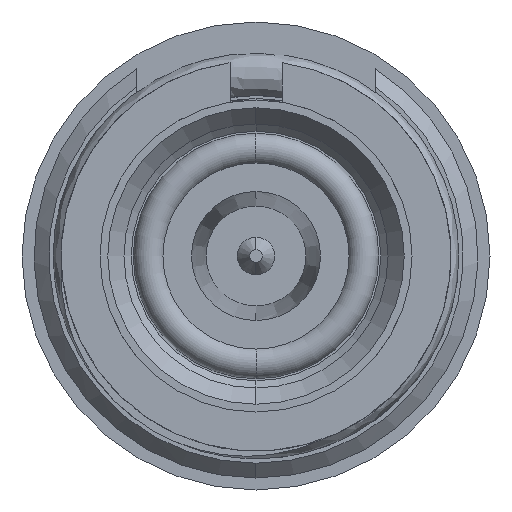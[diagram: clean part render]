
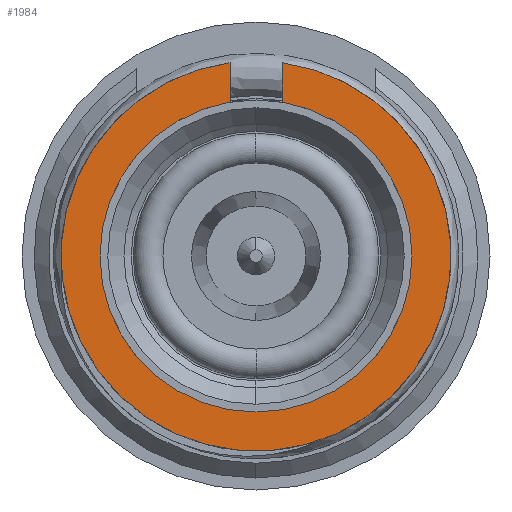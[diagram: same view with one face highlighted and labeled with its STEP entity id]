
A CAD part, left-side view. The second image highlights one B-rep face of the part: STEP entity #1984.
In plain terms, the highlighted planar face has unit normal (-1, 0, 0).
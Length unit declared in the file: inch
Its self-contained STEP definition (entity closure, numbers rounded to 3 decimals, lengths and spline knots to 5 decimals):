
#24 = DIRECTION ( 'NONE',  ( 0., 0., 1. ) ) ;
#263 = CARTESIAN_POINT ( 'NONE',  ( 0.128, -0.025, 0.14029 ) ) ;
#448 = DIRECTION ( 'NONE',  ( -1., 0., 0. ) ) ;
#497 = EDGE_CURVE ( 'NONE', #3614, #3684, #3669, .T. ) ;
#499 = ORIENTED_EDGE ( 'NONE', *, *, #1493, .T. ) ;
#628 = CIRCLE ( 'NONE', #3351, 0.15 ) ;
#655 = CARTESIAN_POINT ( 'NONE',  ( 0.128, 0., -0.15 ) ) ;
#669 = DIRECTION ( 'NONE',  ( 0., 0., -1. ) ) ;
#1075 = CARTESIAN_POINT ( 'NONE',  ( 0.128, -0.025, 0.1479 ) ) ;
#1454 = EDGE_CURVE ( 'NONE', #2110, #3614, #628, .T. ) ;
#1493 = EDGE_CURVE ( 'NONE', #4240, #4301, #3578, .T. ) ;
#1688 = DIRECTION ( 'NONE',  ( 0., 0., 1. ) ) ;
#1821 = DIRECTION ( 'NONE',  ( 0., 0., 1. ) ) ;
#1971 = LINE ( 'NONE', #4815, #2111 ) ;
#1984 = ADVANCED_FACE ( 'NONE', ( #3705 ), #4429, .T. ) ;
#2023 = ORIENTED_EDGE ( 'NONE', *, *, #497, .F. ) ;
#2025 = DIRECTION ( 'NONE',  ( -1., 0., 0. ) ) ;
#2109 = ORIENTED_EDGE ( 'NONE', *, *, #3055, .T. ) ;
#2110 = VERTEX_POINT ( 'NONE', #4504 ) ;
#2111 = VECTOR ( 'NONE', #24, 39.37008 ) ;
#2210 = CARTESIAN_POINT ( 'NONE',  ( 0.128, 0.025, 0.18583 ) ) ;
#2231 = DIRECTION ( 'NONE',  ( -1., 0., 0. ) ) ;
#2519 = DIRECTION ( 'NONE',  ( -1., 0., 0. ) ) ;
#2705 = EDGE_CURVE ( 'NONE', #2110, #4240, #1971, .T. ) ;
#2790 = ORIENTED_EDGE ( 'NONE', *, *, #2705, .T. ) ;
#3055 = EDGE_CURVE ( 'NONE', #4301, #3684, #4739, .T. ) ;
#3191 = EDGE_LOOP ( 'NONE', ( #4077, #2790, #499, #2109, #2023 ) ) ;
#3351 = AXIS2_PLACEMENT_3D ( 'NONE', #4389, #448, #1688 ) ;
#3578 = CIRCLE ( 'NONE', #3598, 0.1875 ) ;
#3598 = AXIS2_PLACEMENT_3D ( 'NONE', #4432, #2519, #4025 ) ;
#3614 = VERTEX_POINT ( 'NONE', #655 ) ;
#3669 = CIRCLE ( 'NONE', #4550, 0.15 ) ;
#3684 = VERTEX_POINT ( 'NONE', #1075 ) ;
#3697 = VECTOR ( 'NONE', #669, 39.37008 ) ;
#3705 = FACE_OUTER_BOUND ( 'NONE', #3191, .T. ) ;
#4025 = DIRECTION ( 'NONE',  ( 0., 0., 1. ) ) ;
#4077 = ORIENTED_EDGE ( 'NONE', *, *, #1454, .F. ) ;
#4099 = AXIS2_PLACEMENT_3D ( 'NONE', #4452, #2025, #4845 ) ;
#4230 = CARTESIAN_POINT ( 'NONE',  ( 0.128, -0.025, 0.18583 ) ) ;
#4240 = VERTEX_POINT ( 'NONE', #2210 ) ;
#4301 = VERTEX_POINT ( 'NONE', #4230 ) ;
#4389 = CARTESIAN_POINT ( 'NONE',  ( 0.128, 0., 0. ) ) ;
#4429 = PLANE ( 'NONE',  #4099 ) ;
#4432 = CARTESIAN_POINT ( 'NONE',  ( 0.128, 0., 0. ) ) ;
#4452 = CARTESIAN_POINT ( 'NONE',  ( 0.128, 0., 0. ) ) ;
#4504 = CARTESIAN_POINT ( 'NONE',  ( 0.128, 0.025, 0.1479 ) ) ;
#4550 = AXIS2_PLACEMENT_3D ( 'NONE', #5033, #2231, #1821 ) ;
#4739 = LINE ( 'NONE', #263, #3697 ) ;
#4815 = CARTESIAN_POINT ( 'NONE',  ( 0.128, 0.025, 0.14029 ) ) ;
#4845 = DIRECTION ( 'NONE',  ( 0., 0., 1. ) ) ;
#5033 = CARTESIAN_POINT ( 'NONE',  ( 0.128, 0., 0. ) ) ;
